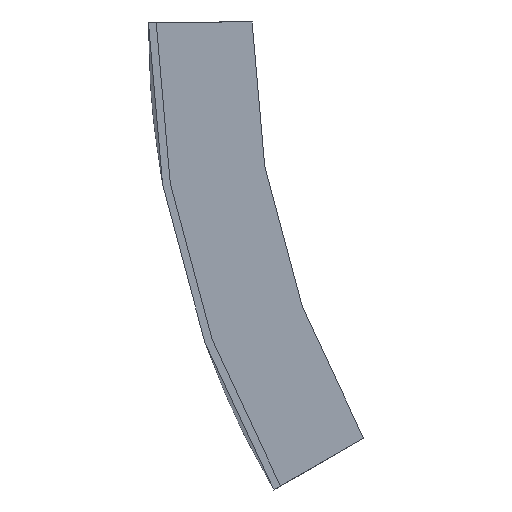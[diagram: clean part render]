
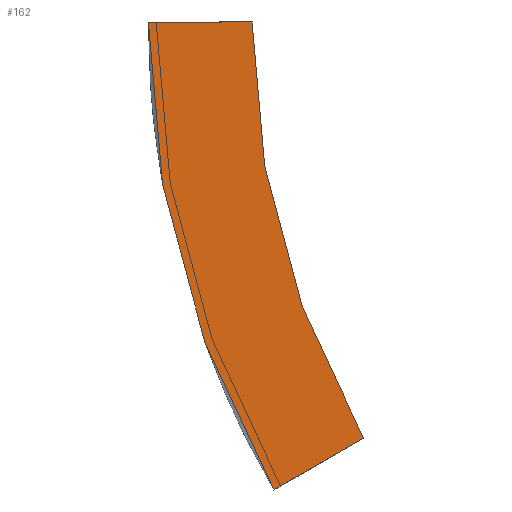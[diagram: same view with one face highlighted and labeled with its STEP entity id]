
A CAD part, left-side view. The second image highlights one B-rep face of the part: STEP entity #162.
In plain terms, the highlighted planar face has unit normal (-1, 0, 0).
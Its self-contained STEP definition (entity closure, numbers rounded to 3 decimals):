
#31 = VERTEX_POINT ( 'NONE', #388 ) ;
#60 = CARTESIAN_POINT ( 'NONE',  ( -303.5, -24.182, -90.25 ) ) ;
#64 = CARTESIAN_POINT ( 'NONE',  ( -303.5, -41.503, -80.25 ) ) ;
#68 = ORIENTED_EDGE ( 'NONE', *, *, #199, .F. ) ;
#76 = DIRECTION ( 'NONE',  ( 0., 0., 1. ) ) ;
#82 = DIRECTION ( 'NONE',  ( -1., 0., 0. ) ) ;
#83 = VERTEX_POINT ( 'NONE', #60 ) ;
#84 = VERTEX_POINT ( 'NONE', #384 ) ;
#101 = DIRECTION ( 'NONE',  ( 0., -1., 0. ) ) ;
#125 = FACE_OUTER_BOUND ( 'NONE', #566, .T. ) ;
#146 = DIRECTION ( 'NONE',  ( -1., 0., 0. ) ) ;
#162 = ADVANCED_FACE ( 'NONE', ( #125 ), #437, .T. ) ;
#163 = VERTEX_POINT ( 'NONE', #495 ) ;
#165 = DIRECTION ( 'NONE',  ( 0., 0.866, -0.5 ) ) ;
#180 = CARTESIAN_POINT ( 'NONE',  ( -303.5, -180.5, 0. ) ) ;
#199 = EDGE_CURVE ( 'NONE', #84, #83, #573, .T. ) ;
#205 = AXIS2_PLACEMENT_3D ( 'NONE', #507, #146, #245 ) ;
#234 = VECTOR ( 'NONE', #165, 1000. ) ;
#235 = CARTESIAN_POINT ( 'NONE',  ( -303.5, -20., 0. ) ) ;
#245 = DIRECTION ( 'NONE',  ( 0., 0., -1. ) ) ;
#255 = ORIENTED_EDGE ( 'NONE', *, *, #530, .F. ) ;
#269 = DIRECTION ( 'NONE',  ( 0., 0., 1. ) ) ;
#314 = AXIS2_PLACEMENT_3D ( 'NONE', #390, #82, #76 ) ;
#334 = ORIENTED_EDGE ( 'NONE', *, *, #488, .F. ) ;
#340 = CIRCLE ( 'NONE', #205, 160.5 ) ;
#358 = EDGE_CURVE ( 'NONE', #163, #31, #517, .T. ) ;
#360 = AXIS2_PLACEMENT_3D ( 'NONE', #180, #486, #269 ) ;
#373 = CIRCLE ( 'NONE', #360, 180.5 ) ;
#384 = CARTESIAN_POINT ( 'NONE',  ( -303.5, -41.503, -80.25 ) ) ;
#388 = CARTESIAN_POINT ( 'NONE',  ( -303.5, -20., 0. ) ) ;
#390 = CARTESIAN_POINT ( 'NONE',  ( -303.5, -180.5, 0. ) ) ;
#437 = PLANE ( 'NONE',  #314 ) ;
#486 = DIRECTION ( 'NONE',  ( 1., 0., 0. ) ) ;
#488 = EDGE_CURVE ( 'NONE', #31, #84, #340, .T. ) ;
#495 = CARTESIAN_POINT ( 'NONE',  ( -303.5, 0., 0. ) ) ;
#505 = VECTOR ( 'NONE', #101, 1000. ) ;
#507 = CARTESIAN_POINT ( 'NONE',  ( -303.5, -180.5, 0. ) ) ;
#513 = ORIENTED_EDGE ( 'NONE', *, *, #358, .F. ) ;
#517 = LINE ( 'NONE', #235, #505 ) ;
#530 = EDGE_CURVE ( 'NONE', #83, #163, #373, .T. ) ;
#566 = EDGE_LOOP ( 'NONE', ( #255, #68, #334, #513 ) ) ;
#573 = LINE ( 'NONE', #64, #234 ) ;
